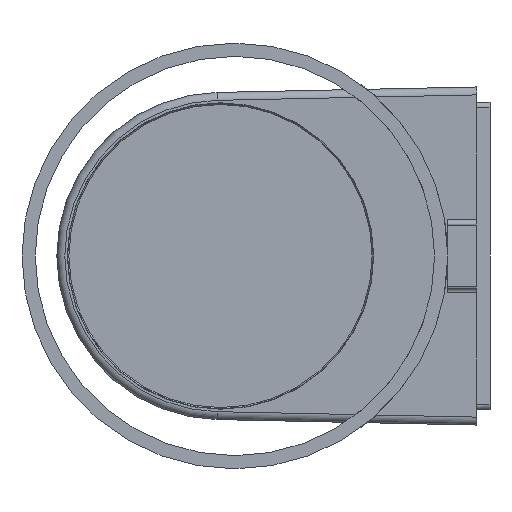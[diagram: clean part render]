
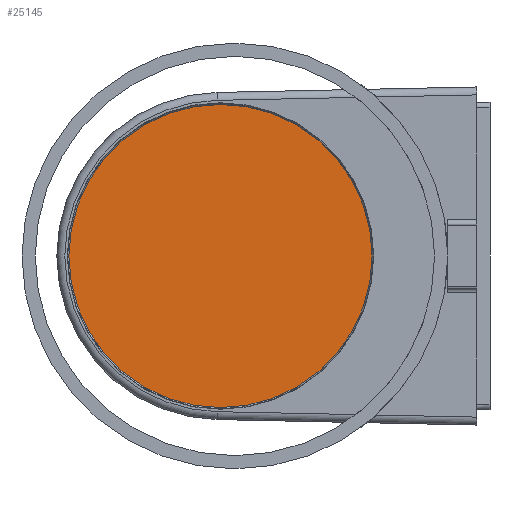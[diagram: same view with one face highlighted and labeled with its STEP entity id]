
A CAD part, front view. The second image highlights one B-rep face of the part: STEP entity #25145.
In plain terms, the highlighted planar face has unit normal (0, -1, 0) as drawn and (0, 1, 0) by its records, which use the part's own axes.
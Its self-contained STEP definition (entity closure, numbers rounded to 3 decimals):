
#1525=CIRCLE('',#26761,28.7);
#1526=CIRCLE('',#26763,28.7);
#2888=FACE_OUTER_BOUND('',#4366,.T.);
#4366=EDGE_LOOP('',(#17532,#17533));
#10523=VERTEX_POINT('',#38490);
#10524=VERTEX_POINT('',#38492);
#13190=EDGE_CURVE('',#10524,#10523,#1525,.T.);
#13192=EDGE_CURVE('',#10523,#10524,#1526,.T.);
#17532=ORIENTED_EDGE('',*,*,#13190,.T.);
#17533=ORIENTED_EDGE('',*,*,#13192,.T.);
#24312=PLANE('',#26764);
#25145=ADVANCED_FACE('',(#2888),#24312,.T.);
#26761=AXIS2_PLACEMENT_3D('',#38493,#29761,#29762);
#26763=AXIS2_PLACEMENT_3D('',#38496,#29766,#29767);
#26764=AXIS2_PLACEMENT_3D('',#38497,#29768,#29769);
#29761=DIRECTION('center_axis',(0.,1.,0.));
#29762=DIRECTION('ref_axis',(1.,0.,0.));
#29766=DIRECTION('center_axis',(0.,1.,0.));
#29767=DIRECTION('ref_axis',(-1.,0.,0.));
#29768=DIRECTION('center_axis',(0.,1.,0.));
#29769=DIRECTION('ref_axis',(1.,0.,0.));
#38490=CARTESIAN_POINT('',(-28.7,3.,0.));
#38492=CARTESIAN_POINT('',(28.7,3.,0.));
#38493=CARTESIAN_POINT('Origin',(0.,3.,0.));
#38496=CARTESIAN_POINT('Origin',(0.,3.,0.));
#38497=CARTESIAN_POINT('Origin',(0.,3.,0.));
